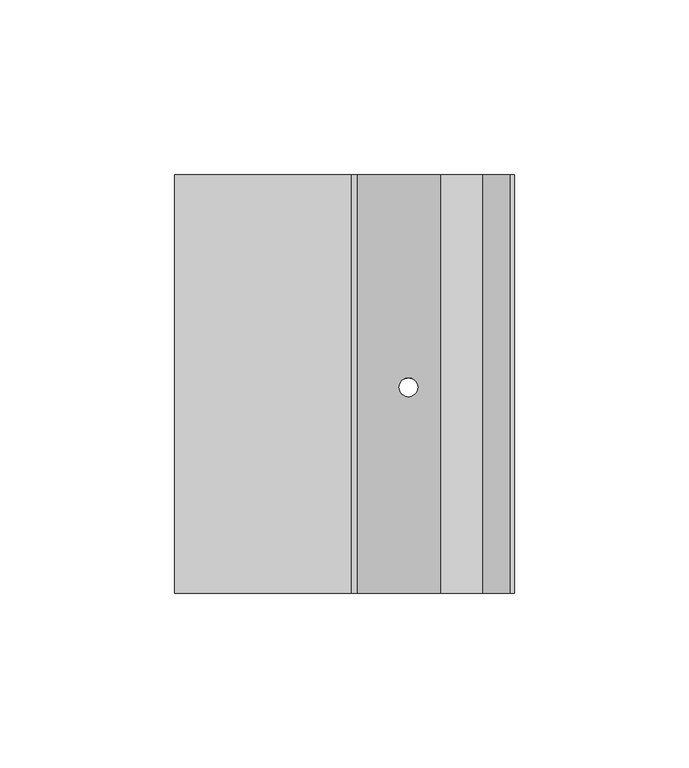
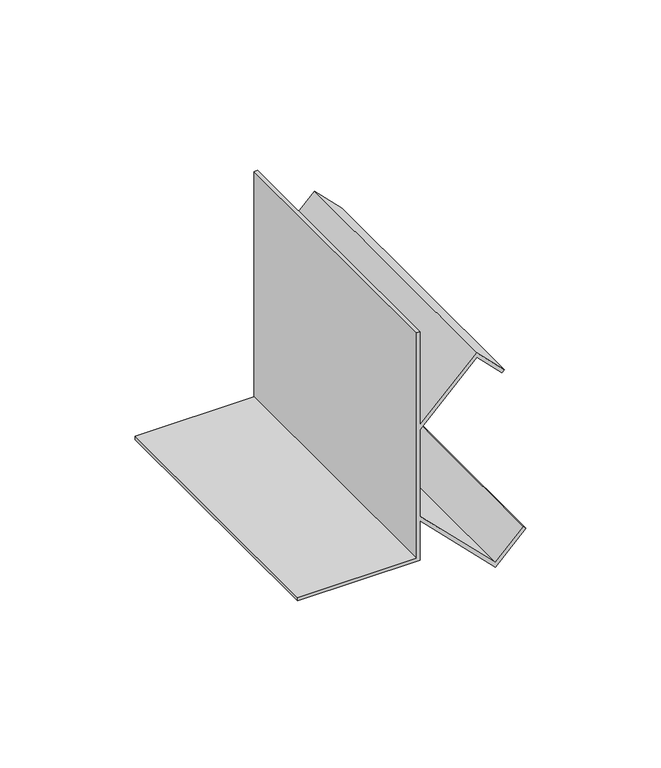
"""IFC4 building model written with IfcOpenShell, lengths in millimetres: proxy geometry, Mechanical Fittings & Accessories24 : Mechanical Fittings & Accessories."""

from ifc_helpers import new_model, si_unit, frame, origin, place, context, project, spatial, polyline, ellipse_curve, source, transform, mapped, element, save
from ifc_brep_helpers import plane_surface, revolved_surface, advanced_brep


def generic_models_312ab789(model_context):
    return source(origin(), model_context, "Body", "AdvancedBrep", [
        advanced_brep(
        [(-13439.8639562, 4565.4963986, 4114.8), (-13490.6639562, 4565.4963986, 4114.8), (-13490.6639562, 4565.4963986, 4113.3117188), (-13438.375675, 4565.4963986, 4113.3117188), (-13438.375675, 4565.4963986, 4131.1383509), (-13406.265914, 4565.4963986, 4099.0285899), (-13393.2869427, 4565.4963986, 4112.0075612), (-13394.3393164, 4565.4963986, 4113.059935), (-13406.265914, 4565.4963986, 4101.1333374), (-13438.375675, 4565.4963986, 4133.2430984), (-13438.375675, 4565.4963986, 4172.2761118), (-13414.203414, 4565.4963986, 4196.4483729), (-13403.4674414, 4565.4963986, 4185.7124003), (-13402.4150677, 4565.4963986, 4186.7647741), (-13414.203414, 4565.4963986, 4198.5531204), (-13438.375675, 4565.4963986, 4174.3808594), (-13438.375675, 4565.4963986, 4216.4), (-13439.8639562, 4565.4963986, 4216.4), (-13439.8639562, 4685.4645457, 4114.8), (-13439.8639562, 4685.4645457, 4216.4), (-13438.375675, 4685.4645457, 4216.4), (-13438.375675, 4685.4645457, 4174.3808594), (-13414.203414, 4685.4645457, 4198.5531204), (-13402.4150677, 4685.4645457, 4186.7647741), (-13403.4674414, 4685.4645457, 4185.7124003), (-13414.203414, 4685.4645457, 4196.4483729), (-13438.375675, 4685.4645457, 4172.2761118), (-13438.375675, 4685.4645457, 4133.2430984), (-13406.265914, 4685.4645457, 4101.1333374), (-13394.3393164, 4685.4645457, 4113.059935), (-13393.2869427, 4685.4645457, 4112.0075612), (-13406.265914, 4685.4645457, 4099.0285899), (-13438.375675, 4685.4645457, 4131.1383509), (-13438.375675, 4685.4645457, 4113.3117188), (-13490.6639562, 4685.4645457, 4113.3117188), (-13490.6639562, 4685.4645457, 4114.8), (-13426.2617646, 4624.5191481, 4119.0244406), (-13420.9223978, 4624.5191481, 4113.6850737), (-13420.9223978, 4624.5191481, 4115.7898213), (-13426.2617646, 4624.5191481, 4121.1291881), (-13426.2617646, 4624.5191481, 4184.3900222), (-13420.9223978, 4624.5191481, 4189.729389), (-13420.9223978, 4624.5191481, 4191.8341365), (-13426.2617646, 4624.5191481, 4186.4947697)],
        [
            (0, 1),
            (1, 2),
            (2, 3),
            (3, 4),
            (4, 5),
            (5, 6),
            (6, 7),
            (7, 8),
            (8, 9),
            (9, 10),
            (10, 11),
            (11, 12),
            (12, 13),
            (13, 14),
            (14, 15),
            (15, 16),
            (16, 17),
            (17, 0),
            (18, 19),
            (19, 20),
            (20, 21),
            (21, 22),
            (22, 23),
            (23, 24),
            (24, 25),
            (25, 26),
            (26, 27),
            (27, 28),
            (28, 29),
            (29, 30),
            (30, 31),
            (31, 32),
            (32, 33),
            (33, 34),
            (34, 35),
            (35, 18),
            (0, 18),
            (35, 1),
            (34, 2),
            (33, 3),
            (32, 4),
            (31, 5),
            (36, 37, ellipse_curve(frame((-13423.5920812, 4624.5191481, 4116.3547571), z_axis=(0.7071067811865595, 0.0, 0.7071067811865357), x_axis=(-0.7071067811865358, 0.0, 0.7071067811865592)), 3.7755025, 2.6696834)),
            (37, 36, ellipse_curve(frame((-13423.5920812, 4624.5191481, 4116.3547571), z_axis=(0.7071067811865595, 0.0, 0.7071067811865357), x_axis=(-0.7071067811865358, 0.0, 0.7071067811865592)), 3.7755025, 2.6696834)),
            (30, 6),
            (29, 7),
            (28, 8),
            (27, 9),
            (38, 39, ellipse_curve(frame((-13423.5920812, 4624.5191481, 4118.4595047), z_axis=(-0.7071067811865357, 0.0, -0.7071067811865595), x_axis=(-0.7071067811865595, 0.0, 0.7071067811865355)), 3.7755025, 2.6696834)),
            (39, 38, ellipse_curve(frame((-13423.5920812, 4624.5191481, 4118.4595047), z_axis=(-0.7071067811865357, 0.0, -0.7071067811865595), x_axis=(-0.7071067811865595, 0.0, 0.7071067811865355)), 3.7755025, 2.6696834)),
            (26, 10),
            (25, 11),
            (40, 41, ellipse_curve(frame((-13423.5920812, 4624.5191481, 4187.0597056), z_axis=(-0.7071067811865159, 0.0, 0.7071067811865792), x_axis=(0.7071067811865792, 0.0, 0.7071067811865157)), 3.7755025, 2.6696834)),
            (41, 40, ellipse_curve(frame((-13423.5920812, 4624.5191481, 4187.0597056), z_axis=(-0.7071067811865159, 0.0, 0.7071067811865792), x_axis=(0.7071067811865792, 0.0, 0.7071067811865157)), 3.7755025, 2.6696834)),
            (24, 12),
            (23, 13),
            (22, 14),
            (21, 15),
            (42, 43, ellipse_curve(frame((-13423.5920812, 4624.5191481, 4189.1644531), z_axis=(0.7071067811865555, 0.0, -0.7071067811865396), x_axis=(0.7071067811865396, 0.0, 0.7071067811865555)), 3.7755025, 2.6696834)),
            (43, 42, ellipse_curve(frame((-13423.5920812, 4624.5191481, 4189.1644531), z_axis=(0.7071067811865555, 0.0, -0.7071067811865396), x_axis=(0.7071067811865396, 0.0, 0.7071067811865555)), 3.7755025, 2.6696834)),
            (20, 16),
            (19, 17),
            (36, 39),
            (38, 37),
            (40, 43),
            (42, 41),
        ],
        [
            plane_surface(frame((-13490.6639562, 4565.4963986, 4114.8), z_axis=(0.0, -1.0, 0.0), x_axis=(-1.0, 0.0, 0.0))),
            plane_surface(frame((-13490.6639562, 4685.4645457, 4114.8), z_axis=(0.0, 1.0, 0.0), x_axis=(1.0, 0.0, 0.0))),
            plane_surface(frame((-13439.8639562, 4565.4963986, 4114.8), z_axis=(0.0, 0.0, 1.0), x_axis=(0.0, 1.0, 0.0))),
            plane_surface(frame((-13490.6639562, 4565.4963986, 4114.8), z_axis=(-1.0, 0.0, 0.0), x_axis=(0.0, 1.0, 0.0))),
            plane_surface(frame((-13490.6639562, 4565.4963986, 4113.3117188), z_axis=(0.0, 0.0, -1.0), x_axis=(0.0, 1.0, 0.0))),
            plane_surface(frame((-13438.375675, 4565.4963986, 4113.3117188), z_axis=(1.0, 0.0, 0.0), x_axis=(0.0, 1.0, 0.0))),
            plane_surface(frame((-13438.375675, 4565.4963986, 4131.1383509), z_axis=(-0.7071067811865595, 0.0, -0.7071067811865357), x_axis=(0.0, 1.0, 0.0))),
            plane_surface(frame((-13406.265914, 4565.4963986, 4099.0285899), z_axis=(0.7071067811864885, 0.0, -0.7071067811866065), x_axis=(0.0, 1.0, 0.0))),
            plane_surface(frame((-13393.2869427, 4565.4963986, 4112.0075612), z_axis=(0.7071067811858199, 0.0, 0.7071067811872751), x_axis=(0.0, 1.0, 0.0))),
            plane_surface(frame((-13394.3393164, 4565.4963986, 4113.059935), z_axis=(-0.7071067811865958, 0.0, 0.7071067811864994), x_axis=(0.0, 1.0, 0.0))),
            plane_surface(frame((-13406.265914, 4565.4963986, 4101.1333374), z_axis=(0.7071067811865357, 0.0, 0.7071067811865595), x_axis=(0.0, 1.0, 0.0))),
            plane_surface(frame((-13438.375675, 4565.4963986, 4133.2430984), z_axis=(1.0, 0.0, 0.0), x_axis=(0.0, 1.0, 0.0))),
            plane_surface(frame((-13438.375675, 4565.4963986, 4172.2761118), z_axis=(0.7071067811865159, 0.0, -0.7071067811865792), x_axis=(0.0, 1.0, 0.0))),
            plane_surface(frame((-13414.203414, 4565.4963986, 4196.4483729), z_axis=(-0.7071067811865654, 0.0, -0.7071067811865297), x_axis=(0.0, 1.0, 0.0))),
            plane_surface(frame((-13403.4674414, 4565.4963986, 4185.7124003), z_axis=(0.7071067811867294, 0.0, -0.7071067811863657), x_axis=(0.0, 1.0, 0.0))),
            plane_surface(frame((-13402.4150677, 4565.4963986, 4186.7647741), z_axis=(0.707106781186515, 0.0, 0.70710678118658), x_axis=(0.0, 1.0, 0.0))),
            plane_surface(frame((-13414.203414, 4565.4963986, 4198.5531204), z_axis=(-0.7071067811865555, 0.0, 0.7071067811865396), x_axis=(0.0, 1.0, 0.0))),
            plane_surface(frame((-13438.375675, 4565.4963986, 4174.3808594), z_axis=(1.0, 0.0, 0.0), x_axis=(0.0, 1.0, 0.0))),
            plane_surface(frame((-13438.375675, 4565.4963986, 4216.4), z_axis=(0.0, 0.0, 1.0), x_axis=(0.0, 1.0, 0.0))),
            plane_surface(frame((-13439.8639562, 4565.4963986, 4216.4), z_axis=(-1.0, 0.0, 0.0), x_axis=(0.0, 1.0, 0.0))),
            revolved_surface(polyline([(-13420.9223978, 4624.5191481, 4121.129188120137), (-13420.9223978, 4624.5191481, 4113.685073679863)]), (-13423.5920812, 4624.5191481, 4097.2034211), (0.0, 0.0, 1.0)),
            revolved_surface(polyline([(-13420.9223978, 4624.5191481, 4191.834136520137), (-13420.9223978, 4624.5191481, 4184.390022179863)]), (-13423.5920812, 4624.5191481, 4097.2034211), (0.0, 0.0, 1.0)),
        ],
        [
            (0, [[1, 2, 3, 4, 5, 6, 7, 8, 9, 10, 11, 12, 13, 14, 15, 16, 17, 18]]),
            (1, [[19, 20, 21, 22, 23, 24, 25, 26, 27, 28, 29, 30, 31, 32, 33, 34, 35, 36]]),
            (2, [[-1, 37, -36, 38]]),
            (3, [[-2, -38, -35, 39]]),
            (4, [[-3, -39, -34, 40]]),
            (5, [[-4, -40, -33, 41]]),
            (6, [[-5, -41, -32, 42], [43, 44]]),
            (7, [[-6, -42, -31, 45]]),
            (8, [[-7, -45, -30, 46]]),
            (9, [[-8, -46, -29, 47]]),
            (10, [[-9, -47, -28, 48], [49, 50]]),
            (11, [[-10, -48, -27, 51]]),
            (12, [[-11, -51, -26, 52], [53, 54]]),
            (13, [[-12, -52, -25, 55]]),
            (14, [[-13, -55, -24, 56]]),
            (15, [[-14, -56, -23, 57]]),
            (16, [[-15, -57, -22, 58], [59, 60]]),
            (17, [[-16, -58, -21, 61]]),
            (18, [[-17, -61, -20, 62]]),
            (19, [[-18, -62, -19, -37]]),
            (20, [[63, -49, 64, -43]]),
            (21, [[65, -59, 66, -53]]),
            (20, [[-63, -44, -64, -50]]),
            (21, [[-65, -54, -66, -60]]),
        ],
    ),
    ])


if __name__ == "__main__":
    model = new_model("IFC4")
    model_context = context("Model", 3, world=origin())
    ifc_project = project(units=[si_unit("LENGTHUNIT", "METRE", prefix="MILLI")], contexts=[model_context])
    site = spatial("IfcSite", under=ifc_project)
    building = spatial("IfcBuilding", under=site)
    placement = place(None, origin())
    generic_models_shape = generic_models_312ab789(model_context)
    element("IfcBuildingElementProxy", 1, Name="Mechanical Fittings & Accessories24 : Mechanical Fittings & Accessories", ObjectType="Mechanical Fittings & Accessories24 : Mechanical Fittings & Accessories", at=placement, inside=building, context=model_context, shape_type="MappedRepresentation", body=[
        mapped(generic_models_shape, transform((0.0, 0.0, 0.0), x_axis=(1.0, 0.0, 0.0), y_axis=(0.0, 1.0, 0.0), z_axis=(0.0, 0.0, 1.0))),
    ])
    save(model, "model.ifc")
